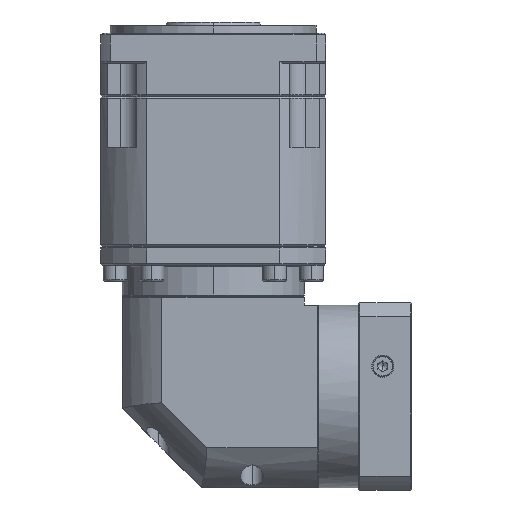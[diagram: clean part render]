
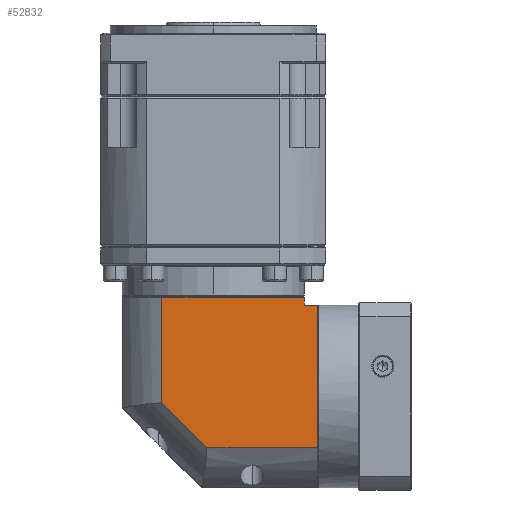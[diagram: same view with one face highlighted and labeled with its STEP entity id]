
A CAD part, left-side view. The second image highlights one B-rep face of the part: STEP entity #52832.
In plain terms, the highlighted planar face has unit normal (-1, 0, 0).
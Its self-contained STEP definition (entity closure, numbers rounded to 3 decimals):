
#2875 = CARTESIAN_POINT ( 'NONE',  ( -228.158, -102.383, -56.8 ) ) ;
#4595 = LINE ( 'NONE', #162720, #104720 ) ;
#7983 = DIRECTION ( 'NONE',  ( 0., 1., 0. ) ) ;
#9067 = VERTEX_POINT ( 'NONE', #89443 ) ;
#10394 = EDGE_CURVE ( 'NONE', #9067, #116762, #88216, .T. ) ;
#11538 = LINE ( 'NONE', #93083, #92538 ) ;
#14615 = DIRECTION ( 'NONE',  ( 0., 1., 0. ) ) ;
#14993 = VECTOR ( 'NONE', #115435, 1000. ) ;
#17714 = ORIENTED_EDGE ( 'NONE', *, *, #135827, .F. ) ;
#23596 = VERTEX_POINT ( 'NONE', #83577 ) ;
#28768 = VERTEX_POINT ( 'NONE', #80102 ) ;
#45563 = DIRECTION ( 'NONE',  ( 0., 1., 0. ) ) ;
#51450 = EDGE_LOOP ( 'NONE', ( #17714, #91897, #160649, #159696, #97746, #136980, #55155 ) ) ;
#52060 = VECTOR ( 'NONE', #7983, 1000. ) ;
#52832 = ADVANCED_FACE ( 'NONE', ( #171631 ), #99096, .F. ) ;
#55155 = ORIENTED_EDGE ( 'NONE', *, *, #159074, .F. ) ;
#55253 = DIRECTION ( 'NONE',  ( 0., -1., 0. ) ) ;
#56969 = CARTESIAN_POINT ( 'NONE',  ( -228.158, -102.383, 58.2 ) ) ;
#59629 = LINE ( 'NONE', #110620, #78717 ) ;
#60596 = LINE ( 'NONE', #56969, #96761 ) ;
#62253 = CARTESIAN_POINT ( 'NONE',  ( -228.158, 12.617, -31.7 ) ) ;
#72856 = VERTEX_POINT ( 'NONE', #169391 ) ;
#78717 = VECTOR ( 'NONE', #55253, 1000. ) ;
#79789 = EDGE_CURVE ( 'NONE', #117161, #28768, #133486, .T. ) ;
#80102 = CARTESIAN_POINT ( 'NONE',  ( -228.158, -102.383, 63.2 ) ) ;
#83577 = CARTESIAN_POINT ( 'NONE',  ( -228.158, -12.483, -3.361 ) ) ;
#84244 = CARTESIAN_POINT ( 'NONE',  ( -228.158, 12.617, 69.7 ) ) ;
#85047 = DIRECTION ( 'NONE',  ( 0., 0., 1. ) ) ;
#85553 = EDGE_CURVE ( 'NONE', #137345, #117161, #60596, .T. ) ;
#88216 = LINE ( 'NONE', #62253, #52060 ) ;
#89233 = EDGE_CURVE ( 'NONE', #116762, #23596, #170876, .T. ) ;
#89443 = CARTESIAN_POINT ( 'NONE',  ( -228.158, -110.783, -31.7 ) ) ;
#91897 = ORIENTED_EDGE ( 'NONE', *, *, #89233, .F. ) ;
#92538 = VECTOR ( 'NONE', #159991, 1000. ) ;
#93083 = CARTESIAN_POINT ( 'NONE',  ( -228.158, -12.483, 69.7 ) ) ;
#96761 = VECTOR ( 'NONE', #14615, 1000. ) ;
#97746 = ORIENTED_EDGE ( 'NONE', *, *, #85553, .T. ) ;
#99096 = PLANE ( 'NONE',  #155264 ) ;
#104720 = VECTOR ( 'NONE', #108386, 1000. ) ;
#108386 = DIRECTION ( 'NONE',  ( 0., 0., -1. ) ) ;
#110620 = CARTESIAN_POINT ( 'NONE',  ( -228.158, 12.617, 63.2 ) ) ;
#115435 = DIRECTION ( 'NONE',  ( 0., 0.707, 0.707 ) ) ;
#116762 = VERTEX_POINT ( 'NONE', #156322 ) ;
#117161 = VERTEX_POINT ( 'NONE', #153408 ) ;
#133486 = LINE ( 'NONE', #2875, #137782 ) ;
#135827 = EDGE_CURVE ( 'NONE', #23596, #72856, #11538, .T. ) ;
#136980 = ORIENTED_EDGE ( 'NONE', *, *, #79789, .T. ) ;
#137345 = VERTEX_POINT ( 'NONE', #152616 ) ;
#137782 = VECTOR ( 'NONE', #85047, 1000. ) ;
#139778 = DIRECTION ( 'NONE',  ( 1., 0., 0. ) ) ;
#142370 = CARTESIAN_POINT ( 'NONE',  ( -228.158, -40.821, -31.7 ) ) ;
#152616 = CARTESIAN_POINT ( 'NONE',  ( -228.158, -110.783, 58.2 ) ) ;
#153408 = CARTESIAN_POINT ( 'NONE',  ( -228.158, -102.383, 58.2 ) ) ;
#155264 = AXIS2_PLACEMENT_3D ( 'NONE', #84244, #139778, #45563 ) ;
#156322 = CARTESIAN_POINT ( 'NONE',  ( -228.158, -40.821, -31.7 ) ) ;
#156507 = EDGE_CURVE ( 'NONE', #137345, #9067, #4595, .T. ) ;
#159074 = EDGE_CURVE ( 'NONE', #72856, #28768, #59629, .T. ) ;
#159696 = ORIENTED_EDGE ( 'NONE', *, *, #156507, .F. ) ;
#159991 = DIRECTION ( 'NONE',  ( 0., 0., 1. ) ) ;
#160649 = ORIENTED_EDGE ( 'NONE', *, *, #10394, .F. ) ;
#162720 = CARTESIAN_POINT ( 'NONE',  ( -228.158, -110.783, 69.7 ) ) ;
#169391 = CARTESIAN_POINT ( 'NONE',  ( -228.158, -12.483, 63.2 ) ) ;
#170876 = LINE ( 'NONE', #142370, #14993 ) ;
#171631 = FACE_OUTER_BOUND ( 'NONE', #51450, .T. ) ;
